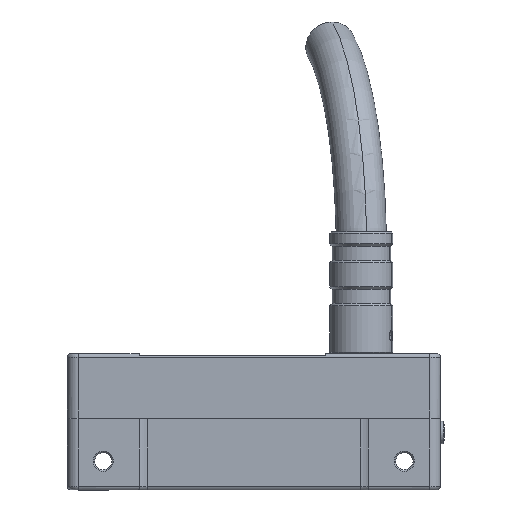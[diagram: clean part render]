
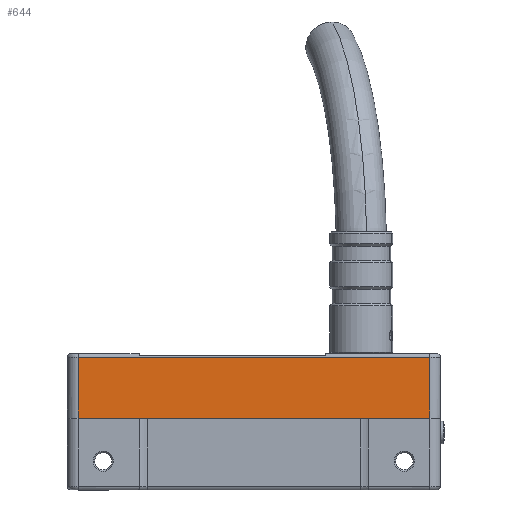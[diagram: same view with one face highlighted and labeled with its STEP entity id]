
A CAD part, top view. The second image highlights one B-rep face of the part: STEP entity #644.
In plain terms, the highlighted planar face has unit normal (0, 0, 1).
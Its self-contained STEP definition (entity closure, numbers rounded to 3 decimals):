
#106 = DIRECTION ( 'NONE',  ( -1., 0., 0. ) ) ;
#137 = CARTESIAN_POINT ( 'NONE',  ( 14.916, 4.967, 7.895 ) ) ;
#228 = PLANE ( 'NONE',  #5642 ) ;
#254 = EDGE_CURVE ( 'NONE', #1975, #1741, #3664, .T. ) ;
#310 = CARTESIAN_POINT ( 'NONE',  ( -26.765, 4.967, 7.895 ) ) ;
#520 = EDGE_CURVE ( 'NONE', #5579, #1741, #3743, .T. ) ;
#566 = CARTESIAN_POINT ( 'NONE',  ( 23.735, 13.467, 7.895 ) ) ;
#644 = ADVANCED_FACE ( 'NONE', ( #2864 ), #228, .T. ) ;
#1246 = EDGE_CURVE ( 'NONE', #1842, #5467, #3480, .T. ) ;
#1343 = EDGE_CURVE ( 'NONE', #5467, #5579, #1762, .T. ) ;
#1506 = CARTESIAN_POINT ( 'NONE',  ( -25.265, 4.967, 7.895 ) ) ;
#1603 = VERTEX_POINT ( 'NONE', #566 ) ;
#1741 = VERTEX_POINT ( 'NONE', #1506 ) ;
#1762 = LINE ( 'NONE', #3533, #4570 ) ;
#1771 = VECTOR ( 'NONE', #4927, 1000. ) ;
#1801 = ORIENTED_EDGE ( 'NONE', *, *, #254, .T. ) ;
#1842 = VERTEX_POINT ( 'NONE', #1895 ) ;
#1895 = CARTESIAN_POINT ( 'NONE',  ( 23.735, 4.967, 7.895 ) ) ;
#1975 = VERTEX_POINT ( 'NONE', #4289 ) ;
#2279 = DIRECTION ( 'NONE',  ( -1., 0., 0. ) ) ;
#2722 = ORIENTED_EDGE ( 'NONE', *, *, #5446, .T. ) ;
#2782 = VECTOR ( 'NONE', #4397, 1000. ) ;
#2864 = FACE_OUTER_BOUND ( 'NONE', #5434, .T. ) ;
#3224 = DIRECTION ( 'NONE',  ( 0., -1., 0. ) ) ;
#3480 = LINE ( 'NONE', #5266, #2782 ) ;
#3532 = VECTOR ( 'NONE', #106, 1000. ) ;
#3533 = CARTESIAN_POINT ( 'NONE',  ( -26.765, 4.967, 7.895 ) ) ;
#3554 = EDGE_CURVE ( 'NONE', #1842, #1603, #4032, .T. ) ;
#3664 = LINE ( 'NONE', #4167, #5724 ) ;
#3679 = DIRECTION ( 'NONE',  ( -1., 0., 0. ) ) ;
#3716 = ORIENTED_EDGE ( 'NONE', *, *, #1246, .F. ) ;
#3743 = LINE ( 'NONE', #4089, #5438 ) ;
#4032 = LINE ( 'NONE', #5792, #1771 ) ;
#4089 = CARTESIAN_POINT ( 'NONE',  ( -26.765, 4.967, 7.895 ) ) ;
#4167 = CARTESIAN_POINT ( 'NONE',  ( -25.265, 4.967, 7.895 ) ) ;
#4178 = CARTESIAN_POINT ( 'NONE',  ( -26.765, 13.467, 7.895 ) ) ;
#4272 = DIRECTION ( 'NONE',  ( 0., 0., 1. ) ) ;
#4289 = CARTESIAN_POINT ( 'NONE',  ( -25.265, 13.467, 7.895 ) ) ;
#4305 = DIRECTION ( 'NONE',  ( -1., 0., 0. ) ) ;
#4397 = DIRECTION ( 'NONE',  ( -1., 0., 0. ) ) ;
#4570 = VECTOR ( 'NONE', #2279, 1000. ) ;
#4927 = DIRECTION ( 'NONE',  ( 0., 1., 0. ) ) ;
#5173 = LINE ( 'NONE', #4178, #3532 ) ;
#5266 = CARTESIAN_POINT ( 'NONE',  ( -26.765, 4.967, 7.895 ) ) ;
#5285 = CARTESIAN_POINT ( 'NONE',  ( -16.446, 4.967, 7.895 ) ) ;
#5315 = ORIENTED_EDGE ( 'NONE', *, *, #1343, .F. ) ;
#5391 = ORIENTED_EDGE ( 'NONE', *, *, #3554, .T. ) ;
#5434 = EDGE_LOOP ( 'NONE', ( #3716, #5391, #2722, #1801, #5461, #5315 ) ) ;
#5438 = VECTOR ( 'NONE', #3679, 1000. ) ;
#5446 = EDGE_CURVE ( 'NONE', #1603, #1975, #5173, .T. ) ;
#5461 = ORIENTED_EDGE ( 'NONE', *, *, #520, .F. ) ;
#5467 = VERTEX_POINT ( 'NONE', #137 ) ;
#5579 = VERTEX_POINT ( 'NONE', #5285 ) ;
#5642 = AXIS2_PLACEMENT_3D ( 'NONE', #310, #4272, #4305 ) ;
#5724 = VECTOR ( 'NONE', #3224, 1000. ) ;
#5792 = CARTESIAN_POINT ( 'NONE',  ( 23.735, 13.467, 7.895 ) ) ;
